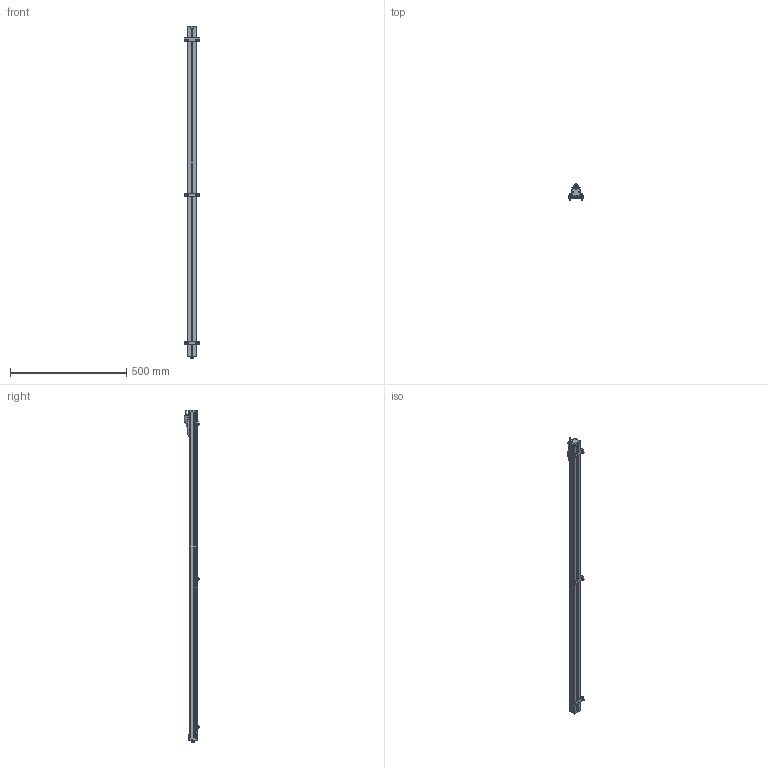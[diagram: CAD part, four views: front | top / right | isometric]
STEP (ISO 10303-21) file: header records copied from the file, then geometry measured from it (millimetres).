
FILE_DESCRIPTION(('STEP AP214'),'1');
FILE_NAME('burster_8718-1250_5te22ml4d0wtxlry18wimhatc.stp','2017-04-18T16:24:45',('TraceParts'),('TraceParts S.A.'),'Spatial InterOp 3D',' ',' ');
FILE_SCHEMA(('automotive_design'));
Length unit declared in the file: millimetre
Products named in the file (1): burster_8718-1250_5te22ml4d0wtxlry18wimhatc
Bounding box: 68 x 67.8 x 1430 mm (x, y, z)
Volume: 1669344.9 mm3; surface area: 292860.5 mm2
Topology: 1 solids, 2 shells, 753 faces, 2140 edges, 1374 vertices
Faces by surface type: plane 394, cylinder 255, cone 40, torus 36, bspline 18, sphere 10
Entity records: 32367 total; most frequent: CARTESIAN_POINT 6481, ORIENTED_EDGE 4216, DIRECTION 4189, EDGE_CURVE 2108, AXIS2_PLACEMENT_3D 1434, VERTEX_POINT 1374, LINE 1321, VECTOR 1321
